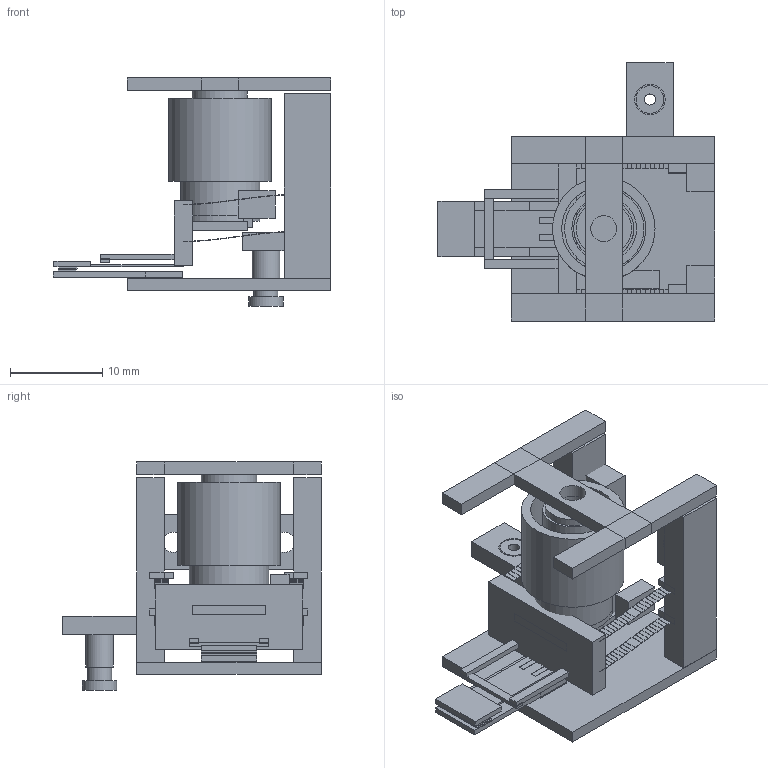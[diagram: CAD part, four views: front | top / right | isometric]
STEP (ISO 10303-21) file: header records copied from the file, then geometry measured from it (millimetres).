
FILE_DESCRIPTION(('Open CASCADE Model'),'2;1');
FILE_NAME('Open CASCADE Shape Model','2026-09-29T17:32:43',('Author'),( 'Open CASCADE'),'Open CASCADE STEP processor 7.8','Open CASCADE 7.8' ,'Unknown');
FILE_SCHEMA(('AUTOMOTIVE_DESIGN { 1 0 10303 214 1 1 1 1 }'));
Length unit declared in the file: millimetre
Products named in the file (41): micro_flexure_closed; base; rear_post_0; roof_rail_0; rear_post_1; roof_rail_1; actuator_mount; magnet_envelope; core_envelope; mount_spacer; coil_envelope; coil_adapter; moving_bridge; moving_crosshead; lower_root; lower_blade; lower_pad; sensing_leaf; upper_nose; upper_pad; gauge_0; gauge_1; overtravel_rail_0; overtravel_rail_1; sensing_stop; guide_leaf_0; guide_rear_clamp_0; guide_leaf_1; guide_rear_clamp_1; guide_leaf_2; guide_rear_clamp_2; guide_leaf_3; guide_rear_clamp_3; vacuum_bracket; vacuum_stem; vacuum_lip; vacuum_neck; position_sensor_reserve; position_target; mount_ear_0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
Assembly tree (40 placements, depth 2):
  micro_flexure_closed
    base
    rear_post_0
    roof_rail_0
    rear_post_1
    roof_rail_1
    actuator_mount
    magnet_envelope
    core_envelope
    mount_spacer
    coil_envelope
    coil_adapter
    moving_bridge
    moving_crosshead
    lower_root
    lower_blade
    lower_pad
    sensing_leaf
    upper_nose
    upper_pad
    gauge_0
    gauge_1
    overtravel_rail_0
    overtravel_rail_1
    sensing_stop
    guide_leaf_0
    guide_rear_clamp_0
    guide_leaf_1
    guide_rear_clamp_1
    guide_leaf_2
    guide_rear_clamp_2
    guide_leaf_3
    guide_rear_clamp_3
    vacuum_bracket
    vacuum_stem
    vacuum_lip
    vacuum_neck
    position_sensor_reserve
    position_target
    mount_ear_0
    mount_ear_1
Bounding box: 30 x 28 x 24.7 mm (x, y, z)
Volume: 2832.8 mm3; surface area: 5435.3 mm2
Topology: 40 solids, 40 shells, 402 faces, 966 edges, 644 vertices
Faces by surface type: plane 384, cylinder 18
Full cylindrical faces by diameter (mm): 1.2 x2, 2.2 x2, 2.5 x1, 2.6 x1, 2.8 x2, 3 x1, 3.3 x1, 3.7 x1, 6 x1, 6.5 x1, 7 x1, 8.6 x2, 9.1 x1, 11.1 x1
Entity records: 25043 total; most frequent: CARTESIAN_POINT 3985, DIRECTION 3820, LINE 2826, VECTOR 2826, ORIENTED_EDGE 1932, PCURVE 1932, DEFINITIONAL_REPRESENTATION 1932, EDGE_CURVE 966
